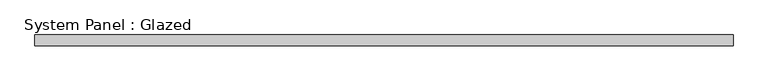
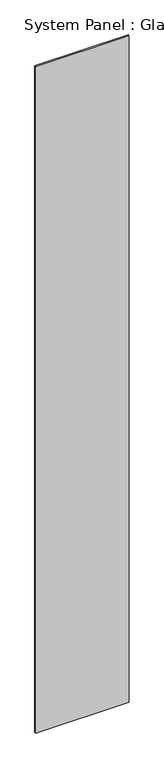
"""IFC4 building model written with IfcOpenShell, lengths in millimetres: plate geometry, System Panel : Glazed."""

from ifc_helpers import new_model, si_unit, origin, origin_with_axes, place, context, project, spatial, polyline, outline, extrude, source, transform, mapped, element, save


def system_panel_glazed_d93a0c65(model_context):
    return source(origin(), model_context, "Body", "SweptSolid", [
        extrude(outline(polyline([(797.5497971, -12.5), (-797.5497971, -12.5), (-797.5497971, 12.5), (797.5497971, 12.5), (797.5497971, -12.5)])), origin_with_axes(), (0.0, 0.0, 1.0), 12000.0),
    ])


if __name__ == "__main__":
    model = new_model("IFC4")
    model_context = context("Model", 3, world=origin())
    ifc_project = project(units=[si_unit("LENGTHUNIT", "METRE", prefix="MILLI")], contexts=[model_context])
    site = spatial("IfcSite", under=ifc_project)
    building = spatial("IfcBuilding", under=site)
    placement = place(None, origin())
    system_panel_glazed_shape = system_panel_glazed_d93a0c65(model_context)
    element("IfcPlate", 1, ObjectType="System Panel : Glazed", at=placement, inside=building, context=model_context, shape_type="MappedRepresentation", body=[
        mapped(system_panel_glazed_shape, transform((0.0, 0.0, 0.0), x_axis=(1.0, 0.0, 0.0), y_axis=(0.0, 1.0, 0.0), z_axis=(0.0, 0.0, 1.0))),
    ])
    save(model, "model.ifc")
